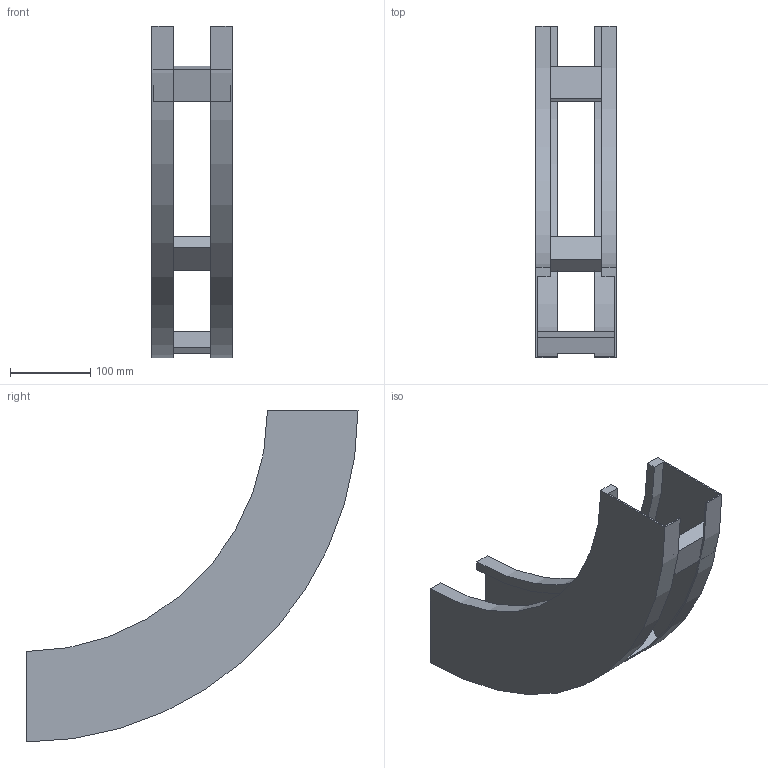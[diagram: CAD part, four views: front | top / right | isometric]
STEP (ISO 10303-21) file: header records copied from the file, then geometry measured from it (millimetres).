
FILE_DESCRIPTION (( 'STEP AP214' ), '1' );
FILE_NAME ('B2X30B3J100XX.step', '2025-03-20T10:22:35', ( '' ), ( '' ), 'SwSTEP 2.0', 'SolidWorks 2023', '' );
FILE_SCHEMA (( 'AUTOMOTIVE_DESIGN' ));
Length unit declared in the file: millimetre
Products named in the file (3): B2X30B3J100XX; TRAVERSINO_100; B2_LONGH.SALITA_90°_H112.5_R300
Assembly tree (5 placements, depth 2):
  B2X30B3J100XX
    B2_LONGH.SALITA_90°_H112.5_R300  x2
    TRAVERSINO_100  x3
Bounding box: 100 x 412.5 x 412.5 mm (x, y, z)
Volume: 734311.4 mm3; surface area: 393271.8 mm2
Topology: 5 solids, 5 shells, 38 faces, 84 edges, 56 vertices
Faces by surface type: plane 30, cylinder 8
Entity records: 560 total; most frequent: DIRECTION 92, CARTESIAN_POINT 84, ORIENTED_EDGE 72, EDGE_CURVE 36, AXIS2_PLACEMENT_3D 32, VECTOR 28, LINE 28, VERTEX_POINT 24
